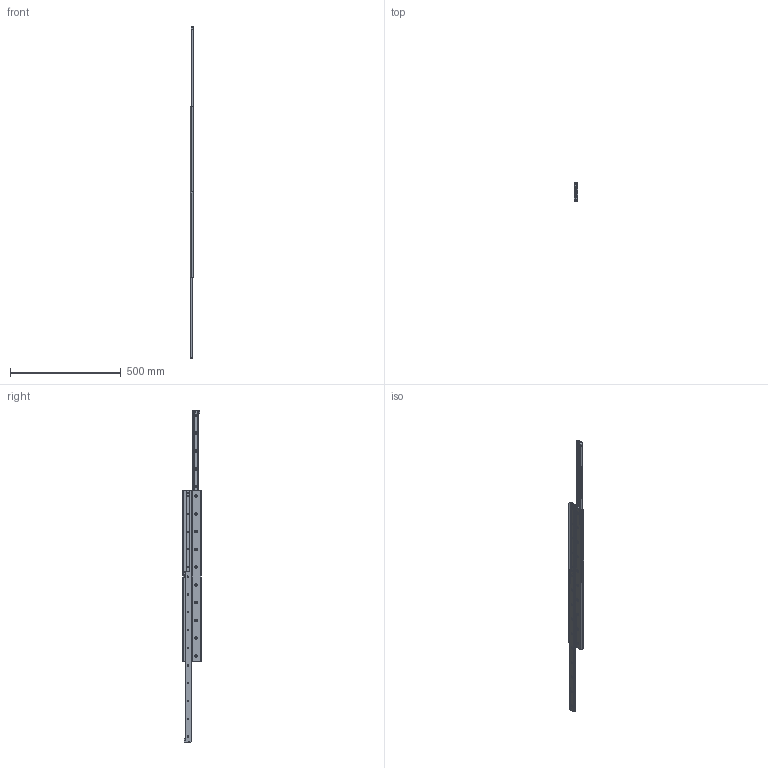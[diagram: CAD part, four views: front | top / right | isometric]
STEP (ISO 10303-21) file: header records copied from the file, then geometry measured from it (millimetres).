
FILE_DESCRIPTION (( 'STEP AP203' ), '1' );
FILE_NAME ('L1984.28D-0770.step', '2018-07-03T12:14:55', ( '' ), ( '' ), 'SwSTEP 2.0', 'SolidWorks 2017', '' );
FILE_SCHEMA (( 'CONFIG_CONTROL_DESIGN' ));
Length unit declared in the file: millimetre
Products named in the file (5): Part0_L1984.28D-0770; L1984.28D-0770; Part1_L1984.28D-0770; Part3_L1984.28D-0770; Part2_L1984.28D-0770
Assembly tree (7 placements, depth 2):
  L1984.28D-0770
    Part0_L1984.28D-0770
    Part2_L1984.28D-0770  x2
    Part1_L1984.28D-0770  x2
    Part3_L1984.28D-0770  x2
Bounding box: 17 x 84 x 1496 mm (x, y, z)
Volume: 661058.1 mm3; surface area: 454611.8 mm2
Topology: 7 solids, 7 shells, 572 faces, 1462 edges, 972 vertices
Faces by surface type: plane 382, cylinder 110, cone 80
Entity records: 12856 total; most frequent: CARTESIAN_POINT 2130, DIRECTION 2105, ORIENTED_EDGE 2058, EDGE_CURVE 1029, VECTOR 787, LINE 787, VERTEX_POINT 684, AXIS2_PLACEMENT_3D 659
